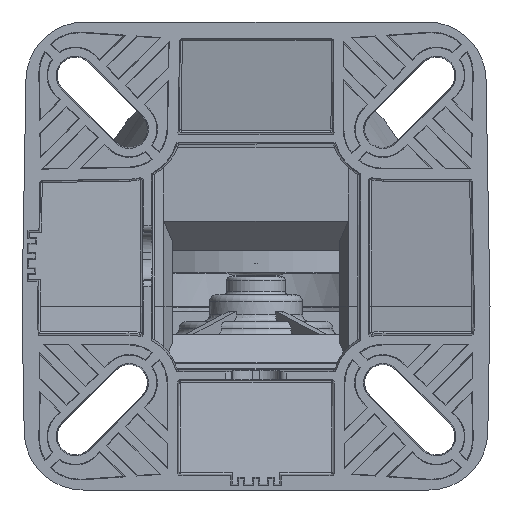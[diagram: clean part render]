
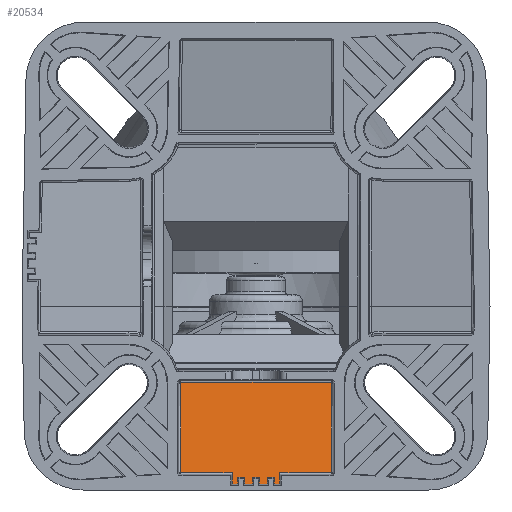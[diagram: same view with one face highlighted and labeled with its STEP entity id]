
A CAD part, front view. The second image highlights one B-rep face of the part: STEP entity #20534.
In plain terms, the highlighted planar face has unit normal (0, -0.985, 0.174).
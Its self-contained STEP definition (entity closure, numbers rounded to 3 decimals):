
#4955=CARTESIAN_POINT('',(-11.222,-3.143,
-18.878));
#4956=CARTESIAN_POINT('',(-11.222,-3.147,
-18.9));
#4957=CARTESIAN_POINT('',(-11.22,-3.155,
-18.943));
#4958=CARTESIAN_POINT('',(-11.221,-3.166,
-19.008));
#4959=CARTESIAN_POINT('',(-11.22,-3.174,
-19.051));
#4960=CARTESIAN_POINT('',(-11.22,-3.177,
-19.073));
#4967=DIRECTION('',(-1.,0.,0.));
#4968=VECTOR('',#4967,0.876);
#4969=CARTESIAN_POINT('',(3.589,-5.836,
-34.139));
#4970=LINE('',#4969,#4968);
#4971=DIRECTION('',(-1.,0.,0.));
#4972=VECTOR('',#4971,1.176);
#4973=CARTESIAN_POINT('',(1.688,-5.836,
-34.139));
#4974=LINE('',#4973,#4972);
#4975=DIRECTION('',(-1.,0.,0.));
#4976=VECTOR('',#4975,1.176);
#4977=CARTESIAN_POINT('',(-0.512,-5.836,
-34.139));
#4978=LINE('',#4977,#4976);
#4979=DIRECTION('',(-1.,0.,0.));
#4980=VECTOR('',#4979,0.876);
#4981=CARTESIAN_POINT('',(-2.712,-5.836,
-34.139));
#4982=LINE('',#4981,#4980);
#4983=DIRECTION('',(0.003,0.174,0.985));
#4984=VECTOR('',#4983,13.516);
#4985=CARTESIAN_POINT('',(-11.265,-5.526,
-32.383));
#4986=LINE('',#4985,#4984);
#4987=DIRECTION('',(0.003,-0.174,-0.985));
#4988=VECTOR('',#4987,13.516);
#4989=CARTESIAN_POINT('',(11.22,-3.177,
-19.073));
#4990=LINE('',#4989,#4988);
#4991=DIRECTION('',(1.,0.,0.));
#4992=VECTOR('',#4991,7.685);
#4993=CARTESIAN_POINT('',(3.58,-5.526,
-32.383));
#4994=LINE('',#4993,#4992);
#5019=CARTESIAN_POINT('',(11.22,-3.177,
-19.073));
#5020=CARTESIAN_POINT('',(11.22,-3.174,
-19.051));
#5021=CARTESIAN_POINT('',(11.22,-3.166,
-19.008));
#5022=CARTESIAN_POINT('',(11.222,-3.155,
-18.943));
#5023=CARTESIAN_POINT('',(11.222,-3.147,
-18.9));
#5024=CARTESIAN_POINT('',(11.223,-3.143,
-18.878));
#5064=DIRECTION('',(-1.,0.,0.));
#5065=VECTOR('',#5064,22.445);
#5066=CARTESIAN_POINT('',(11.223,-3.143,
-18.878));
#5067=LINE('',#5066,#5065);
#5096=DIRECTION('',(-0.005,0.174,0.985));
#5097=VECTOR('',#5096,1.783);
#5098=CARTESIAN_POINT('',(3.589,-5.836,
-34.139));
#5099=LINE('',#5098,#5097);
#5122=DIRECTION('',(-0.003,-0.174,-0.985));
#5123=VECTOR('',#5122,1.028);
#5124=CARTESIAN_POINT('',(2.715,-5.657,
-33.126));
#5125=LINE('',#5124,#5123);
#5126=DIRECTION('',(1.,0.,0.));
#5127=VECTOR('',#5126,1.031);
#5128=CARTESIAN_POINT('',(1.685,-5.657,
-33.126));
#5129=LINE('',#5128,#5127);
#5134=DIRECTION('',(-0.003,0.174,0.985));
#5135=VECTOR('',#5134,1.028);
#5136=CARTESIAN_POINT('',(1.688,-5.836,
-34.139));
#5137=LINE('',#5136,#5135);
#5154=DIRECTION('',(-0.003,-0.174,-0.985));
#5155=VECTOR('',#5154,1.028);
#5156=CARTESIAN_POINT('',(0.515,-5.657,
-33.126));
#5157=LINE('',#5156,#5155);
#5158=DIRECTION('',(1.,0.,0.));
#5159=VECTOR('',#5158,1.031);
#5160=CARTESIAN_POINT('',(-0.515,-5.657,
-33.126));
#5161=LINE('',#5160,#5159);
#5166=DIRECTION('',(-0.003,0.174,0.985));
#5167=VECTOR('',#5166,1.028);
#5168=CARTESIAN_POINT('',(-0.512,-5.836,
-34.139));
#5169=LINE('',#5168,#5167);
#5186=DIRECTION('',(-0.003,-0.174,-0.985));
#5187=VECTOR('',#5186,1.028);
#5188=CARTESIAN_POINT('',(-1.685,-5.657,
-33.126));
#5189=LINE('',#5188,#5187);
#5190=DIRECTION('',(1.,0.,0.));
#5191=VECTOR('',#5190,1.031);
#5192=CARTESIAN_POINT('',(-2.715,-5.657,
-33.126));
#5193=LINE('',#5192,#5191);
#5198=DIRECTION('',(-0.003,0.174,0.985));
#5199=VECTOR('',#5198,1.028);
#5200=CARTESIAN_POINT('',(-2.712,-5.836,
-34.139));
#5201=LINE('',#5200,#5199);
#5224=DIRECTION('',(-0.005,-0.174,-0.985));
#5225=VECTOR('',#5224,1.783);
#5226=CARTESIAN_POINT('',(-3.58,-5.526,
-32.383));
#5227=LINE('',#5226,#5225);
#5275=DIRECTION('',(1.,0.,0.));
#5276=VECTOR('',#5275,7.685);
#5277=CARTESIAN_POINT('',(-11.265,-5.526,
-32.383));
#5278=LINE('',#5277,#5276);
#13602=CARTESIAN_POINT('',(11.22,-3.177,
-19.073));
#13603=VERTEX_POINT('',#13602);
#13604=VERTEX_POINT('',#5024);
#13605=CARTESIAN_POINT('',(11.265,-5.526,
-32.383));
#13606=VERTEX_POINT('',#13605);
#13609=CARTESIAN_POINT('',(3.58,-5.526,
-32.383));
#13610=VERTEX_POINT('',#13609);
#13611=CARTESIAN_POINT('',(3.589,-5.836,
-34.139));
#13612=VERTEX_POINT('',#13611);
#13613=CARTESIAN_POINT('',(2.712,-5.836,
-34.139));
#13614=VERTEX_POINT('',#13613);
#13615=CARTESIAN_POINT('',(2.715,-5.657,
-33.126));
#13616=VERTEX_POINT('',#13615);
#13617=CARTESIAN_POINT('',(1.685,-5.657,
-33.126));
#13618=VERTEX_POINT('',#13617);
#13619=CARTESIAN_POINT('',(1.688,-5.836,
-34.139));
#13620=VERTEX_POINT('',#13619);
#13621=CARTESIAN_POINT('',(0.512,-5.836,
-34.139));
#13622=VERTEX_POINT('',#13621);
#13623=CARTESIAN_POINT('',(0.515,-5.657,
-33.126));
#13624=VERTEX_POINT('',#13623);
#13625=CARTESIAN_POINT('',(-0.515,-5.657,
-33.126));
#13626=VERTEX_POINT('',#13625);
#13627=CARTESIAN_POINT('',(-0.512,-5.836,
-34.139));
#13628=VERTEX_POINT('',#13627);
#13629=CARTESIAN_POINT('',(-1.688,-5.836,
-34.139));
#13630=VERTEX_POINT('',#13629);
#13631=CARTESIAN_POINT('',(-1.685,-5.657,
-33.126));
#13632=VERTEX_POINT('',#13631);
#13633=CARTESIAN_POINT('',(-2.715,-5.657,
-33.126));
#13634=VERTEX_POINT('',#13633);
#13635=CARTESIAN_POINT('',(-2.712,-5.836,
-34.139));
#13636=VERTEX_POINT('',#13635);
#13637=CARTESIAN_POINT('',(-3.589,-5.836,
-34.139));
#13638=VERTEX_POINT('',#13637);
#13639=CARTESIAN_POINT('',(-3.58,-5.526,
-32.383));
#13640=VERTEX_POINT('',#13639);
#13641=CARTESIAN_POINT('',(-11.265,-5.526,
-32.383));
#13642=VERTEX_POINT('',#13641);
#13643=CARTESIAN_POINT('',(-11.22,-3.177,
-19.073));
#13644=VERTEX_POINT('',#13643);
#13645=VERTEX_POINT('',#4955);
#20484=CARTESIAN_POINT('',(-31.5,-2.378,-14.539));
#20485=DIRECTION('',(0.,-0.985,0.174));
#20486=DIRECTION('',(0.,-0.174,-0.985));
#20487=AXIS2_PLACEMENT_3D('',#20484,#20485,#20486);
#20488=PLANE('',#20487);
#20490=ORIENTED_EDGE('',*,*,#20489,.F.);
#20492=ORIENTED_EDGE('',*,*,#20491,.F.);
#20494=ORIENTED_EDGE('',*,*,#20493,.T.);
#20496=ORIENTED_EDGE('',*,*,#20495,.F.);
#20498=ORIENTED_EDGE('',*,*,#20497,.F.);
#20500=ORIENTED_EDGE('',*,*,#20499,.F.);
#20502=ORIENTED_EDGE('',*,*,#20501,.T.);
#20504=ORIENTED_EDGE('',*,*,#20503,.F.);
#20506=ORIENTED_EDGE('',*,*,#20505,.F.);
#20508=ORIENTED_EDGE('',*,*,#20507,.F.);
#20510=ORIENTED_EDGE('',*,*,#20509,.T.);
#20512=ORIENTED_EDGE('',*,*,#20511,.F.);
#20514=ORIENTED_EDGE('',*,*,#20513,.F.);
#20516=ORIENTED_EDGE('',*,*,#20515,.F.);
#20518=ORIENTED_EDGE('',*,*,#20517,.T.);
#20520=ORIENTED_EDGE('',*,*,#20519,.F.);
#20522=ORIENTED_EDGE('',*,*,#20521,.F.);
#20524=ORIENTED_EDGE('',*,*,#20523,.T.);
#20525=ORIENTED_EDGE('',*,*,#20474,.F.);
#20527=ORIENTED_EDGE('',*,*,#20526,.F.);
#20529=ORIENTED_EDGE('',*,*,#20528,.F.);
#20531=ORIENTED_EDGE('',*,*,#20530,.T.);
#20532=EDGE_LOOP('',(#20490,#20492,#20494,#20496,#20498,#20500,#20502,#20504,
#20506,#20508,#20510,#20512,#20514,#20516,#20518,#20520,#20522,#20524,#20525,
#20527,#20529,#20531));
#20533=FACE_OUTER_BOUND('',#20532,.F.);
#20534=ADVANCED_FACE('',(#20533),#20488,.T.);
#4961=B_SPLINE_CURVE_WITH_KNOTS('',3,(#4955,#4956,#4957,#4958,#4959,#4960),
.UNSPECIFIED.,.F.,.F.,(4,1,1,4),(0.,0.333,0.667,1.),
.UNSPECIFIED.);
#5025=B_SPLINE_CURVE_WITH_KNOTS('',3,(#5019,#5020,#5021,#5022,#5023,#5024),
.UNSPECIFIED.,.F.,.F.,(4,1,1,4),(0.,0.333,0.667,1.),
.UNSPECIFIED.);
#20474=EDGE_CURVE('',#13645,#13644,#4961,.T.);
#20489=EDGE_CURVE('',#13610,#13606,#4994,.T.);
#20491=EDGE_CURVE('',#13612,#13610,#5099,.T.);
#20493=EDGE_CURVE('',#13612,#13614,#4970,.T.);
#20495=EDGE_CURVE('',#13616,#13614,#5125,.T.);
#20497=EDGE_CURVE('',#13618,#13616,#5129,.T.);
#20499=EDGE_CURVE('',#13620,#13618,#5137,.T.);
#20501=EDGE_CURVE('',#13620,#13622,#4974,.T.);
#20503=EDGE_CURVE('',#13624,#13622,#5157,.T.);
#20505=EDGE_CURVE('',#13626,#13624,#5161,.T.);
#20507=EDGE_CURVE('',#13628,#13626,#5169,.T.);
#20509=EDGE_CURVE('',#13628,#13630,#4978,.T.);
#20511=EDGE_CURVE('',#13632,#13630,#5189,.T.);
#20513=EDGE_CURVE('',#13634,#13632,#5193,.T.);
#20515=EDGE_CURVE('',#13636,#13634,#5201,.T.);
#20517=EDGE_CURVE('',#13636,#13638,#4982,.T.);
#20519=EDGE_CURVE('',#13640,#13638,#5227,.T.);
#20521=EDGE_CURVE('',#13642,#13640,#5278,.T.);
#20523=EDGE_CURVE('',#13642,#13644,#4986,.T.);
#20526=EDGE_CURVE('',#13604,#13645,#5067,.T.);
#20528=EDGE_CURVE('',#13603,#13604,#5025,.T.);
#20530=EDGE_CURVE('',#13603,#13606,#4990,.T.);
